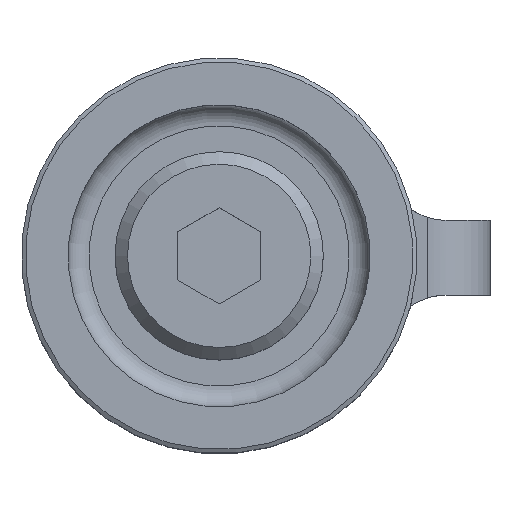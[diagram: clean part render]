
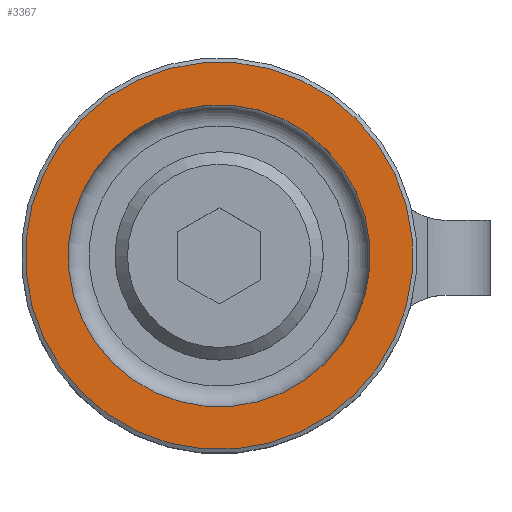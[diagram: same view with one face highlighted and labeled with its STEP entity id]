
A CAD part, top view. The second image highlights one B-rep face of the part: STEP entity #3367.
In plain terms, the highlighted planar face has unit normal (0, 0, 1) as drawn and (1, 0, 0) by its records, which use the part's own axes.
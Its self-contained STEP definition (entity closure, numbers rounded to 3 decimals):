
#369=FACE_BOUND('',#4076,.T.);
#370=FACE_BOUND('',#4077,.T.);
#3367=ADVANCED_FACE('A_MATE1',(#369,#370),#3681,.F.);
#3681=PLANE('',#8162);
#4076=EDGE_LOOP('',(#5225));
#4077=EDGE_LOOP('',(#5226));
#5225=ORIENTED_EDGE('',*,*,#7158,.T.);
#5226=ORIENTED_EDGE('',*,*,#7159,.F.);
#6628=VERTEX_POINT('',#10525);
#6629=VERTEX_POINT('',#10527);
#7158=EDGE_CURVE('',#6628,#6628,#7872,.T.);
#7159=EDGE_CURVE('',#6629,#6629,#7873,.T.);
#7872=CIRCLE('',#8160,9.3);
#7873=CIRCLE('',#8161,7.25);
#8160=AXIS2_PLACEMENT_3D('',#10524,#8920,#8921);
#8161=AXIS2_PLACEMENT_3D('',#10526,#8922,#8923);
#8162=AXIS2_PLACEMENT_3D('',#10528,#8924,#8925);
#8920=DIRECTION('',(1.,0.,0.));
#8921=DIRECTION('',(0.,0.,1.));
#8922=DIRECTION('',(1.,0.,0.));
#8923=DIRECTION('',(0.,0.,1.));
#8924=DIRECTION('',(-1.,0.,0.));
#8925=DIRECTION('',(0.,0.,1.));
#10524=CARTESIAN_POINT('',(10.,0.,0.));
#10525=CARTESIAN_POINT('',(10.,0.,9.3));
#10526=CARTESIAN_POINT('',(10.,0.,0.));
#10527=CARTESIAN_POINT('',(10.,0.,7.25));
#10528=CARTESIAN_POINT('',(10.,9.5,0.));
